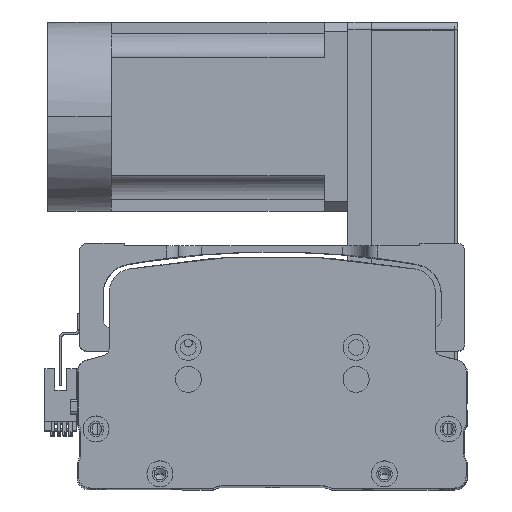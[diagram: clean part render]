
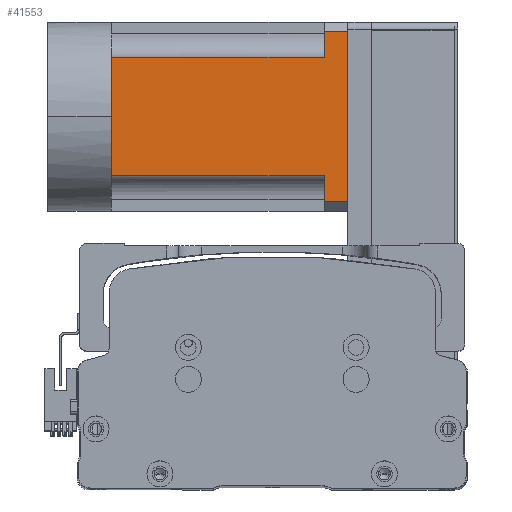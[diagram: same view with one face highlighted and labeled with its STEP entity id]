
A CAD part, top view. The second image highlights one B-rep face of the part: STEP entity #41553.
In plain terms, the highlighted planar face has unit normal (0, 0, 1) as drawn and (0, 0, -1) by its records, which use the part's own axes.
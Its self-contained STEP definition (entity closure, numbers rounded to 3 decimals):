
#1179 = ORIENTED_EDGE ( 'NONE', *, *, #57504, .T. ) ;
#1410 = ORIENTED_EDGE ( 'NONE', *, *, #2380, .T. ) ;
#2380 = EDGE_CURVE ( 'NONE', #45272, #11766, #24971, .T. ) ;
#2804 = DIRECTION ( 'NONE',  ( -1., 0., 0. ) ) ;
#4439 = LINE ( 'NONE', #8243, #15246 ) ;
#4926 = DIRECTION ( 'NONE',  ( 0., 1., 0. ) ) ;
#5338 = DIRECTION ( 'NONE',  ( 0., 1., 0. ) ) ;
#5673 = CARTESIAN_POINT ( 'NONE',  ( 36., 100., -40. ) ) ;
#6748 = VERTEX_POINT ( 'NONE', #51618 ) ;
#7414 = ORIENTED_EDGE ( 'NONE', *, *, #21167, .T. ) ;
#7584 = EDGE_LOOP ( 'NONE', ( #16348, #1410, #33949, #7414, #33875, #29022, #48716, #38610, #1179 ) ) ;
#7740 = VECTOR ( 'NONE', #5338, 1000. ) ;
#8243 = CARTESIAN_POINT ( 'NONE',  ( -40., 90., -40. ) ) ;
#9210 = CARTESIAN_POINT ( 'NONE',  ( -25., 90., -40. ) ) ;
#9217 = VERTEX_POINT ( 'NONE', #15864 ) ;
#9463 = VECTOR ( 'NONE', #36425, 1000. ) ;
#9569 = CARTESIAN_POINT ( 'NONE',  ( -36., -27., -40. ) ) ;
#10245 = EDGE_CURVE ( 'NONE', #11766, #54696, #12288, .T. ) ;
#10706 = VERTEX_POINT ( 'NONE', #9210 ) ;
#11543 = DIRECTION ( 'NONE',  ( -1., 0., 0. ) ) ;
#11643 = VECTOR ( 'NONE', #2804, 1000. ) ;
#11766 = VERTEX_POINT ( 'NONE', #15034 ) ;
#11807 = LINE ( 'NONE', #35930, #59543 ) ;
#12288 = LINE ( 'NONE', #29899, #46252 ) ;
#15023 = LINE ( 'NONE', #9569, #38125 ) ;
#15034 = CARTESIAN_POINT ( 'NONE',  ( 36., 90., -40. ) ) ;
#15246 = VECTOR ( 'NONE', #22123, 1000. ) ;
#15864 = CARTESIAN_POINT ( 'NONE',  ( -25., 0., -40. ) ) ;
#16348 = ORIENTED_EDGE ( 'NONE', *, *, #22462, .F. ) ;
#17184 = CARTESIAN_POINT ( 'NONE',  ( -40., 100., -40. ) ) ;
#17295 = CARTESIAN_POINT ( 'NONE',  ( 36., -27., -40. ) ) ;
#17755 = DIRECTION ( 'NONE',  ( -1., 0., 0. ) ) ;
#19017 = CARTESIAN_POINT ( 'NONE',  ( -25., -27., -40. ) ) ;
#19958 = LINE ( 'NONE', #19017, #7740 ) ;
#20781 = LINE ( 'NONE', #17184, #56237 ) ;
#21167 = EDGE_CURVE ( 'NONE', #54696, #34570, #21708, .T. ) ;
#21708 = LINE ( 'NONE', #54895, #9463 ) ;
#21829 = VERTEX_POINT ( 'NONE', #30182 ) ;
#22123 = DIRECTION ( 'NONE',  ( -1., 0., 0. ) ) ;
#22462 = EDGE_CURVE ( 'NONE', #45272, #21829, #20781, .T. ) ;
#23875 = LINE ( 'NONE', #44194, #11643 ) ;
#24527 = EDGE_CURVE ( 'NONE', #34685, #9217, #23875, .T. ) ;
#24971 = LINE ( 'NONE', #17295, #26442 ) ;
#25321 = DIRECTION ( 'NONE',  ( 0., 0., -1. ) ) ;
#26442 = VECTOR ( 'NONE', #44965, 1000. ) ;
#27802 = AXIS2_PLACEMENT_3D ( 'NONE', #39110, #25321, #57743 ) ;
#29022 = ORIENTED_EDGE ( 'NONE', *, *, #24527, .T. ) ;
#29899 = CARTESIAN_POINT ( 'NONE',  ( -40., 90., -40. ) ) ;
#30182 = CARTESIAN_POINT ( 'NONE',  ( -36., 100., -40. ) ) ;
#33875 = ORIENTED_EDGE ( 'NONE', *, *, #35234, .T. ) ;
#33949 = ORIENTED_EDGE ( 'NONE', *, *, #10245, .T. ) ;
#34570 = VERTEX_POINT ( 'NONE', #37627 ) ;
#34685 = VERTEX_POINT ( 'NONE', #41056 ) ;
#35234 = EDGE_CURVE ( 'NONE', #34570, #34685, #11807, .T. ) ;
#35930 = CARTESIAN_POINT ( 'NONE',  ( -40., 0., -40. ) ) ;
#36425 = DIRECTION ( 'NONE',  ( 0., -1., 0. ) ) ;
#37627 = CARTESIAN_POINT ( 'NONE',  ( 25., 0., -40. ) ) ;
#38125 = VECTOR ( 'NONE', #4926, 1000. ) ;
#38609 = EDGE_CURVE ( 'NONE', #9217, #10706, #19958, .T. ) ;
#38610 = ORIENTED_EDGE ( 'NONE', *, *, #52750, .T. ) ;
#39110 = CARTESIAN_POINT ( 'NONE',  ( -40., -27., -40. ) ) ;
#41056 = CARTESIAN_POINT ( 'NONE',  ( 0., 0., -40. ) ) ;
#41553 = ADVANCED_FACE ( 'NONE', ( #56331 ), #53077, .T. ) ;
#44194 = CARTESIAN_POINT ( 'NONE',  ( -40., 0., -40. ) ) ;
#44853 = DIRECTION ( 'NONE',  ( -1., 0., 0. ) ) ;
#44965 = DIRECTION ( 'NONE',  ( 0., -1., 0. ) ) ;
#45272 = VERTEX_POINT ( 'NONE', #5673 ) ;
#46252 = VECTOR ( 'NONE', #11543, 1000. ) ;
#48716 = ORIENTED_EDGE ( 'NONE', *, *, #38609, .T. ) ;
#51618 = CARTESIAN_POINT ( 'NONE',  ( -36., 90., -40. ) ) ;
#52750 = EDGE_CURVE ( 'NONE', #10706, #6748, #4439, .T. ) ;
#53077 = PLANE ( 'NONE',  #27802 ) ;
#54696 = VERTEX_POINT ( 'NONE', #57113 ) ;
#54895 = CARTESIAN_POINT ( 'NONE',  ( 25., -27., -40. ) ) ;
#56237 = VECTOR ( 'NONE', #44853, 1000. ) ;
#56331 = FACE_OUTER_BOUND ( 'NONE', #7584, .T. ) ;
#57113 = CARTESIAN_POINT ( 'NONE',  ( 25., 90., -40. ) ) ;
#57504 = EDGE_CURVE ( 'NONE', #6748, #21829, #15023, .T. ) ;
#57743 = DIRECTION ( 'NONE',  ( -1., 0., 0. ) ) ;
#59543 = VECTOR ( 'NONE', #17755, 1000. ) ;
